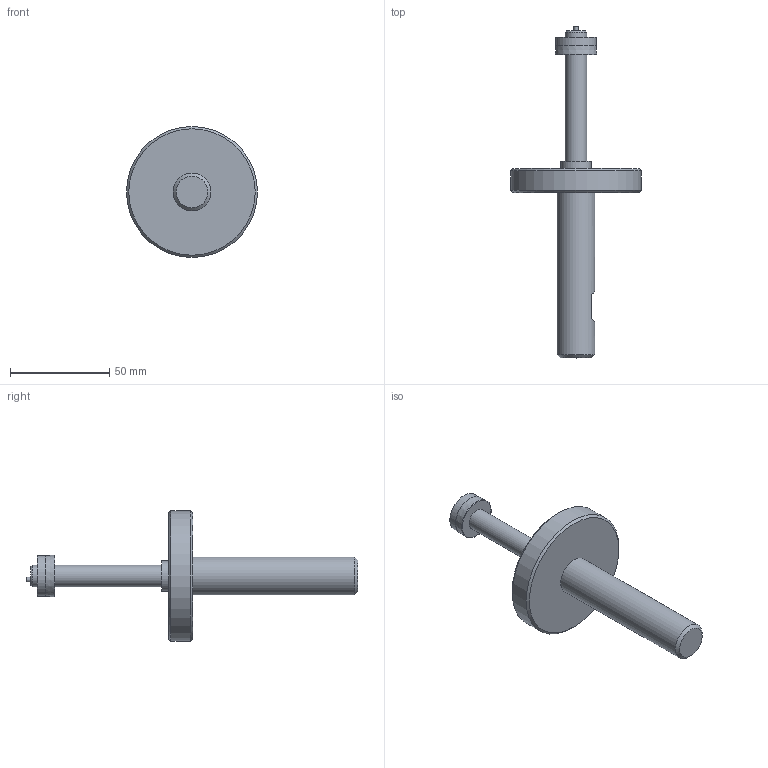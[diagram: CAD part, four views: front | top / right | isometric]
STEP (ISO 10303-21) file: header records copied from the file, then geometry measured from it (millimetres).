
FILE_DESCRIPTION (( 'STEP AP203' ), '1' );
FILE_NAME ('AF40-SIMPLE - AF40-11.00-21.00M.step', '2025-01-21T16:30:57', ( '' ), ( '' ), 'SwSTEP 2.0', 'SolidWorks 2024', '' );
FILE_SCHEMA (( 'CONFIG_CONTROL_DESIGN' ));
Length unit declared in the file: inch
Products named in the file (1): AF40-SIMPLE - AF40-11.00-21.00M
Bounding box: 66.04 x 167.39 x 66.04 mm (x, y, z)
Volume: 73924.4 mm3; surface area: 17213.8 mm2
Topology: 1 solids, 1 shells, 24 faces, 40 edges, 25 vertices
Faces by surface type: plane 11, cylinder 7, cone 5, torus 1
Full cylindrical faces by diameter (mm): 2.286 x1, 10.871 x2, 15.24 x1, 19.05 x1, 20.494 x1, 66.04 x1
Entity records: 569 total; most frequent: DIRECTION 94, CARTESIAN_POINT 81, ORIENTED_EDGE 52, AXIS2_PLACEMENT_3D 45, EDGE_LOOP 44, FACE_OUTER_BOUND 32, EDGE_CURVE 26, VERTEX_POINT 24
